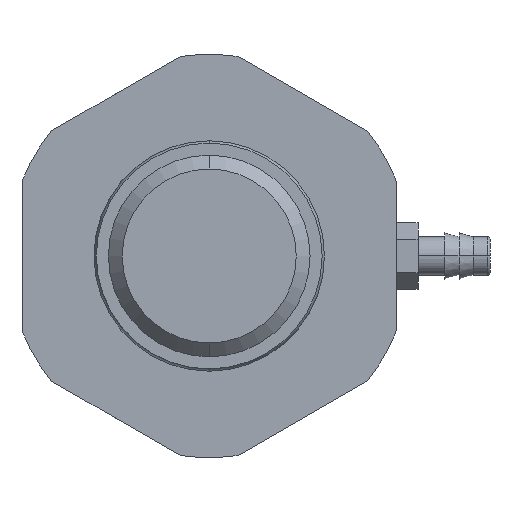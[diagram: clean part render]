
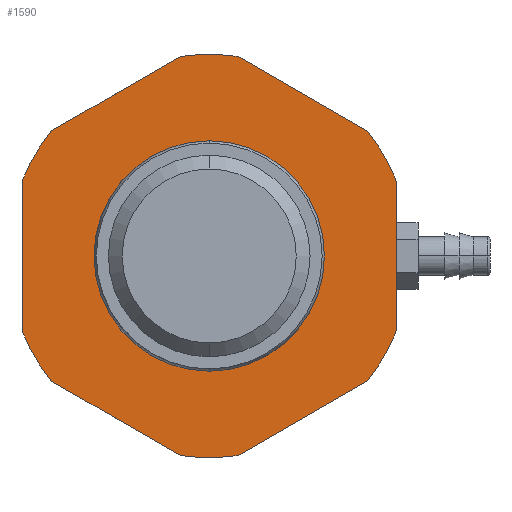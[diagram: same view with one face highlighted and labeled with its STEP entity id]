
A CAD part, left-side view. The second image highlights one B-rep face of the part: STEP entity #1590.
In plain terms, the highlighted planar face has unit normal (-1, 0, 0).
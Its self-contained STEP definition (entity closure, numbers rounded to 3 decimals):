
#1278=CARTESIAN_POINT('',(-2.875,0.,0.413));
#1279=VERTEX_POINT('',#1278);
#1295=CARTESIAN_POINT('',(-2.875,0.,-0.413));
#1296=VERTEX_POINT('',#1295);
#1303=CARTESIAN_POINT('',(-2.875,0.,0.0));
#1304=DIRECTION('',(1.0,0.0,0.0));
#1305=DIRECTION('',(0.0,0.0,1.0));
#1306=AXIS2_PLACEMENT_3D('',#1303,#1304,#1305);
#1307=CIRCLE('',#1306,0.413);
#1308=EDGE_CURVE('',#1296,#1279,#1307,.F.);
#1471=CARTESIAN_POINT('',(-2.875,0.0,0.0));
#1472=DIRECTION('',(-1.0,0.0,0.0));
#1473=DIRECTION('',(0.0,0.0,1.0));
#1474=AXIS2_PLACEMENT_3D('',#1471,#1472,#1473);
#1475=PLANE('',#1474);
#1476=CARTESIAN_POINT('',(-2.875,-0.125,-0.866));
#1477=VERTEX_POINT('',#1476);
#1478=CARTESIAN_POINT('',(-2.875,0.125,-0.866));
#1479=VERTEX_POINT('',#1478);
#1480=CARTESIAN_POINT('',(-2.875,0.0,0.0));
#1481=DIRECTION('',(1.0,0.0,0.0));
#1482=DIRECTION('',(0.0,0.0,-1.0));
#1483=AXIS2_PLACEMENT_3D('',#1480,#1481,#1482);
#1484=CIRCLE('',#1483,0.875);
#1485=EDGE_CURVE('',#1477,#1479,#1484,.T.);
#1486=ORIENTED_EDGE('',*,*,#1485,.F.);
#1487=CARTESIAN_POINT('',(-2.875,-0.688,-0.541));
#1488=VERTEX_POINT('',#1487);
#1489=CARTESIAN_POINT('',(-2.875,-0.688,-0.541));
#1490=DIRECTION('',(0.0,0.866,-0.5));
#1491=VECTOR('',#1490,0.65);
#1492=LINE('',#1489,#1491);
#1493=EDGE_CURVE('',#1488,#1477,#1492,.T.);
#1494=ORIENTED_EDGE('',*,*,#1493,.F.);
#1495=CARTESIAN_POINT('',(-2.875,-0.813,-0.325));
#1496=VERTEX_POINT('',#1495);
#1497=CARTESIAN_POINT('',(-2.875,0.,0.0));
#1498=DIRECTION('',(1.0,0.0,0.0));
#1499=DIRECTION('',(0.0,-0.866,-0.5));
#1500=AXIS2_PLACEMENT_3D('',#1497,#1498,#1499);
#1501=CIRCLE('',#1500,0.875);
#1502=EDGE_CURVE('',#1496,#1488,#1501,.T.);
#1503=ORIENTED_EDGE('',*,*,#1502,.F.);
#1504=CARTESIAN_POINT('',(-2.875,-0.813,0.325));
#1505=VERTEX_POINT('',#1504);
#1506=CARTESIAN_POINT('',(-2.875,-0.813,0.325));
#1507=DIRECTION('',(0.0,0.0,-1.0));
#1508=VECTOR('',#1507,0.65);
#1509=LINE('',#1506,#1508);
#1510=EDGE_CURVE('',#1505,#1496,#1509,.T.);
#1511=ORIENTED_EDGE('',*,*,#1510,.F.);
#1512=CARTESIAN_POINT('',(-2.875,-0.688,0.541));
#1513=VERTEX_POINT('',#1512);
#1514=CARTESIAN_POINT('',(-2.875,0.,0.0));
#1515=DIRECTION('',(1.0,0.0,0.0));
#1516=DIRECTION('',(0.0,-0.866,0.5));
#1517=AXIS2_PLACEMENT_3D('',#1514,#1515,#1516);
#1518=CIRCLE('',#1517,0.875);
#1519=EDGE_CURVE('',#1513,#1505,#1518,.T.);
#1520=ORIENTED_EDGE('',*,*,#1519,.F.);
#1521=CARTESIAN_POINT('',(-2.875,-0.125,0.866));
#1522=VERTEX_POINT('',#1521);
#1523=CARTESIAN_POINT('',(-2.875,-0.125,0.866));
#1524=DIRECTION('',(0.0,-0.866,-0.5));
#1525=VECTOR('',#1524,0.65);
#1526=LINE('',#1523,#1525);
#1527=EDGE_CURVE('',#1522,#1513,#1526,.T.);
#1528=ORIENTED_EDGE('',*,*,#1527,.F.);
#1529=CARTESIAN_POINT('',(-2.875,0.125,0.866));
#1530=VERTEX_POINT('',#1529);
#1531=CARTESIAN_POINT('',(-2.875,0.0,0.0));
#1532=DIRECTION('',(1.0,0.0,0.0));
#1533=DIRECTION('',(0.0,0.0,1.0));
#1534=AXIS2_PLACEMENT_3D('',#1531,#1532,#1533);
#1535=CIRCLE('',#1534,0.875);
#1536=EDGE_CURVE('',#1530,#1522,#1535,.T.);
#1537=ORIENTED_EDGE('',*,*,#1536,.F.);
#1538=CARTESIAN_POINT('',(-2.875,0.688,0.541));
#1539=VERTEX_POINT('',#1538);
#1540=CARTESIAN_POINT('',(-2.875,0.688,0.541));
#1541=DIRECTION('',(0.0,-0.866,0.5));
#1542=VECTOR('',#1541,0.65);
#1543=LINE('',#1540,#1542);
#1544=EDGE_CURVE('',#1539,#1530,#1543,.T.);
#1545=ORIENTED_EDGE('',*,*,#1544,.F.);
#1546=CARTESIAN_POINT('',(-2.875,0.813,0.325));
#1547=VERTEX_POINT('',#1546);
#1548=CARTESIAN_POINT('',(-2.875,0.0,0.0));
#1549=DIRECTION('',(1.0,0.0,0.0));
#1550=DIRECTION('',(0.0,0.866,0.5));
#1551=AXIS2_PLACEMENT_3D('',#1548,#1549,#1550);
#1552=CIRCLE('',#1551,0.875);
#1553=EDGE_CURVE('',#1547,#1539,#1552,.T.);
#1554=ORIENTED_EDGE('',*,*,#1553,.F.);
#1555=CARTESIAN_POINT('',(-2.875,0.813,-0.325));
#1556=VERTEX_POINT('',#1555);
#1557=CARTESIAN_POINT('',(-2.875,0.813,-0.325));
#1558=DIRECTION('',(0.0,0.0,1.0));
#1559=VECTOR('',#1558,0.65);
#1560=LINE('',#1557,#1559);
#1561=EDGE_CURVE('',#1556,#1547,#1560,.T.);
#1562=ORIENTED_EDGE('',*,*,#1561,.F.);
#1563=CARTESIAN_POINT('',(-2.875,0.687,-0.541));
#1564=VERTEX_POINT('',#1563);
#1565=CARTESIAN_POINT('',(-2.875,0.,0.0));
#1566=DIRECTION('',(1.0,0.0,0.0));
#1567=DIRECTION('',(0.0,0.866,-0.5));
#1568=AXIS2_PLACEMENT_3D('',#1565,#1566,#1567);
#1569=CIRCLE('',#1568,0.875);
#1570=EDGE_CURVE('',#1564,#1556,#1569,.T.);
#1571=ORIENTED_EDGE('',*,*,#1570,.F.);
#1572=CARTESIAN_POINT('',(-2.875,0.125,-0.866));
#1573=DIRECTION('',(0.0,0.866,0.5));
#1574=VECTOR('',#1573,0.65);
#1575=LINE('',#1572,#1574);
#1576=EDGE_CURVE('',#1479,#1564,#1575,.T.);
#1577=ORIENTED_EDGE('',*,*,#1576,.F.);
#1578=EDGE_LOOP('',(#1486,#1494,#1503,#1511,#1520,#1528,#1537,#1545,#1554,#1562,#1571,#1577));
#1579=FACE_OUTER_BOUND('',#1578,.T.);
#1580=CARTESIAN_POINT('',(-2.875,0.,0.0));
#1581=DIRECTION('',(1.0,0.0,0.0));
#1582=DIRECTION('',(0.0,0.0,1.0));
#1583=AXIS2_PLACEMENT_3D('',#1580,#1581,#1582);
#1584=CIRCLE('',#1583,0.413);
#1585=EDGE_CURVE('',#1279,#1296,#1584,.F.);
#1586=ORIENTED_EDGE('',*,*,#1585,.F.);
#1587=ORIENTED_EDGE('',*,*,#1308,.F.);
#1588=EDGE_LOOP('',(#1586,#1587));
#1589=FACE_BOUND('',#1588,.T.);
#1590=ADVANCED_FACE('',(#1579,#1589),#1475,.T.);
